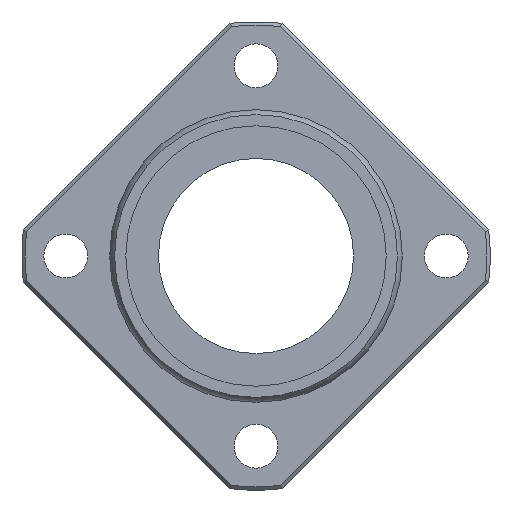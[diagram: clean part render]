
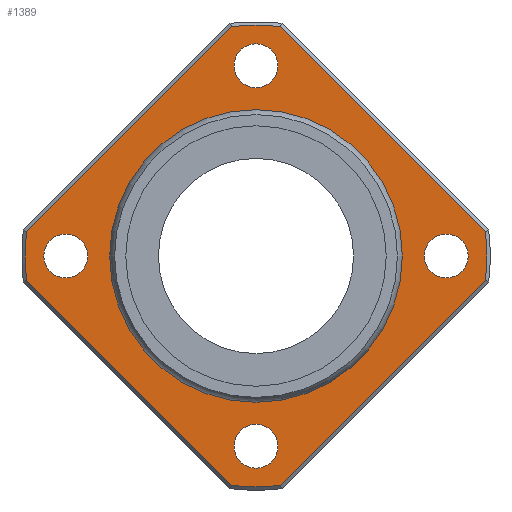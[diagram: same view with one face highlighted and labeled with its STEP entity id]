
A CAD part, left-side view. The second image highlights one B-rep face of the part: STEP entity #1389.
In plain terms, the highlighted planar face has unit normal (-1, 0, 0).
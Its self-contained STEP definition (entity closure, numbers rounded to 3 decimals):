
#965=CARTESIAN_POINT('',(-56.5,47.034,5.009));
#966=VERTEX_POINT('',#965);
#974=CARTESIAN_POINT('',(-56.5,5.009,47.034));
#975=VERTEX_POINT('',#974);
#976=CARTESIAN_POINT('',(-56.5,47.034,5.009));
#977=DIRECTION('',(0.0,-0.707,0.707));
#978=VECTOR('',#977,59.432);
#979=LINE('',#976,#978);
#980=EDGE_CURVE('',#966,#975,#979,.T.);
#1007=CARTESIAN_POINT('',(-56.5,-5.009,47.034));
#1008=VERTEX_POINT('',#1007);
#1009=CARTESIAN_POINT('',(-56.5,0.0,0.0));
#1010=DIRECTION('',(1.0,0.0,0.0));
#1011=DIRECTION('',(0.0,0.0,1.0));
#1012=AXIS2_PLACEMENT_3D('',#1009,#1010,#1011);
#1013=CIRCLE('',#1012,47.3);
#1014=EDGE_CURVE('',#975,#1008,#1013,.T.);
#1040=CARTESIAN_POINT('',(-56.5,-47.034,5.009));
#1041=VERTEX_POINT('',#1040);
#1042=CARTESIAN_POINT('',(-56.5,-5.009,47.034));
#1043=DIRECTION('',(0.0,-0.707,-0.707));
#1044=VECTOR('',#1043,59.432);
#1045=LINE('',#1042,#1044);
#1046=EDGE_CURVE('',#1008,#1041,#1045,.T.);
#1073=CARTESIAN_POINT('',(-56.5,-47.034,-5.009));
#1074=VERTEX_POINT('',#1073);
#1075=CARTESIAN_POINT('',(-56.5,0.0,0.0));
#1076=DIRECTION('',(1.0,0.0,0.0));
#1077=DIRECTION('',(0.0,0.0,1.0));
#1078=AXIS2_PLACEMENT_3D('',#1075,#1076,#1077);
#1079=CIRCLE('',#1078,47.3);
#1080=EDGE_CURVE('',#1041,#1074,#1079,.T.);
#1106=CARTESIAN_POINT('',(-56.5,-5.009,-47.034));
#1107=VERTEX_POINT('',#1106);
#1108=CARTESIAN_POINT('',(-56.5,-47.034,-5.009));
#1109=DIRECTION('',(0.0,0.707,-0.707));
#1110=VECTOR('',#1109,59.432);
#1111=LINE('',#1108,#1110);
#1112=EDGE_CURVE('',#1074,#1107,#1111,.T.);
#1139=CARTESIAN_POINT('',(-56.5,5.009,-47.034));
#1140=VERTEX_POINT('',#1139);
#1141=CARTESIAN_POINT('',(-56.5,0.0,0.0));
#1142=DIRECTION('',(1.0,0.0,0.0));
#1143=DIRECTION('',(0.0,0.0,-1.0));
#1144=AXIS2_PLACEMENT_3D('',#1141,#1142,#1143);
#1145=CIRCLE('',#1144,47.3);
#1146=EDGE_CURVE('',#1107,#1140,#1145,.T.);
#1172=CARTESIAN_POINT('',(-56.5,47.034,-5.009));
#1173=VERTEX_POINT('',#1172);
#1174=CARTESIAN_POINT('',(-56.5,5.009,-47.034));
#1175=DIRECTION('',(0.0,0.707,0.707));
#1176=VECTOR('',#1175,59.432);
#1177=LINE('',#1174,#1176);
#1178=EDGE_CURVE('',#1140,#1173,#1177,.T.);
#1203=CARTESIAN_POINT('',(-56.5,0.0,0.0));
#1204=DIRECTION('',(1.0,0.0,0.0));
#1205=DIRECTION('',(0.0,0.0,1.0));
#1206=AXIS2_PLACEMENT_3D('',#1203,#1204,#1205);
#1207=CIRCLE('',#1206,47.3);
#1208=EDGE_CURVE('',#1173,#966,#1207,.T.);
#1319=CARTESIAN_POINT('',(-56.5,0.0,38.834));
#1320=DIRECTION('',(-1.0,0.0,0.0));
#1321=DIRECTION('',(0.0,0.0,1.0));
#1322=AXIS2_PLACEMENT_3D('',#1319,#1320,#1321);
#1323=PLANE('',#1322);
#1324=ORIENTED_EDGE('',*,*,#980,.F.);
#1325=ORIENTED_EDGE('',*,*,#1208,.F.);
#1326=ORIENTED_EDGE('',*,*,#1178,.F.);
#1327=ORIENTED_EDGE('',*,*,#1146,.F.);
#1328=ORIENTED_EDGE('',*,*,#1112,.F.);
#1329=ORIENTED_EDGE('',*,*,#1080,.F.);
#1330=ORIENTED_EDGE('',*,*,#1046,.F.);
#1331=ORIENTED_EDGE('',*,*,#1014,.F.);
#1332=EDGE_LOOP('',(#1324,#1325,#1326,#1327,#1328,#1329,#1330,#1331));
#1333=FACE_OUTER_BOUND('',#1332,.T.);
#1334=CARTESIAN_POINT('',(-56.5,0.0,29.668));
#1335=VERTEX_POINT('',#1334);
#1336=CARTESIAN_POINT('',(-56.5,0.0,0.0));
#1337=DIRECTION('',(-1.0,0.0,0.0));
#1338=DIRECTION('',(0.0,0.0,1.0));
#1339=AXIS2_PLACEMENT_3D('',#1336,#1337,#1338);
#1340=CIRCLE('',#1339,29.668);
#1341=EDGE_CURVE('',#1335,#1335,#1340,.T.);
#1342=ORIENTED_EDGE('',*,*,#1341,.F.);
#1343=EDGE_LOOP('',(#1342));
#1344=FACE_BOUND('',#1343,.T.);
#1345=CARTESIAN_POINT('',(-56.5,34.5,0.));
#1346=VERTEX_POINT('',#1345);
#1347=CARTESIAN_POINT('',(-56.5,39.0,0.));
#1348=DIRECTION('',(1.0,0.0,0.0));
#1349=DIRECTION('',(0.0,1.0,0.0));
#1350=AXIS2_PLACEMENT_3D('',#1347,#1348,#1349);
#1351=CIRCLE('',#1350,4.5);
#1352=EDGE_CURVE('',#1346,#1346,#1351,.T.);
#1353=ORIENTED_EDGE('',*,*,#1352,.T.);
#1354=EDGE_LOOP('',(#1353));
#1355=FACE_BOUND('',#1354,.T.);
#1356=CARTESIAN_POINT('',(-56.5,-43.5,0.));
#1357=VERTEX_POINT('',#1356);
#1358=CARTESIAN_POINT('',(-56.5,-39.0,0.0));
#1359=DIRECTION('',(1.0,0.0,0.0));
#1360=DIRECTION('',(0.0,1.0,0.0));
#1361=AXIS2_PLACEMENT_3D('',#1358,#1359,#1360);
#1362=CIRCLE('',#1361,4.5);
#1363=EDGE_CURVE('',#1357,#1357,#1362,.T.);
#1364=ORIENTED_EDGE('',*,*,#1363,.T.);
#1365=EDGE_LOOP('',(#1364));
#1366=FACE_BOUND('',#1365,.T.);
#1367=CARTESIAN_POINT('',(-56.5,-4.5,39.0));
#1368=VERTEX_POINT('',#1367);
#1369=CARTESIAN_POINT('',(-56.5,0.,39.0));
#1370=DIRECTION('',(1.0,0.0,0.0));
#1371=DIRECTION('',(0.0,1.0,0.0));
#1372=AXIS2_PLACEMENT_3D('',#1369,#1370,#1371);
#1373=CIRCLE('',#1372,4.5);
#1374=EDGE_CURVE('',#1368,#1368,#1373,.T.);
#1375=ORIENTED_EDGE('',*,*,#1374,.T.);
#1376=EDGE_LOOP('',(#1375));
#1377=FACE_BOUND('',#1376,.T.);
#1378=CARTESIAN_POINT('',(-56.5,-4.5,-39.0));
#1379=VERTEX_POINT('',#1378);
#1380=CARTESIAN_POINT('',(-56.5,0.,-39.0));
#1381=DIRECTION('',(1.0,0.0,0.0));
#1382=DIRECTION('',(0.0,1.0,0.0));
#1383=AXIS2_PLACEMENT_3D('',#1380,#1381,#1382);
#1384=CIRCLE('',#1383,4.5);
#1385=EDGE_CURVE('',#1379,#1379,#1384,.T.);
#1386=ORIENTED_EDGE('',*,*,#1385,.T.);
#1387=EDGE_LOOP('',(#1386));
#1388=FACE_BOUND('',#1387,.T.);
#1389=ADVANCED_FACE('',(#1333,#1344,#1355,#1366,#1377,#1388),#1323,.T.);
